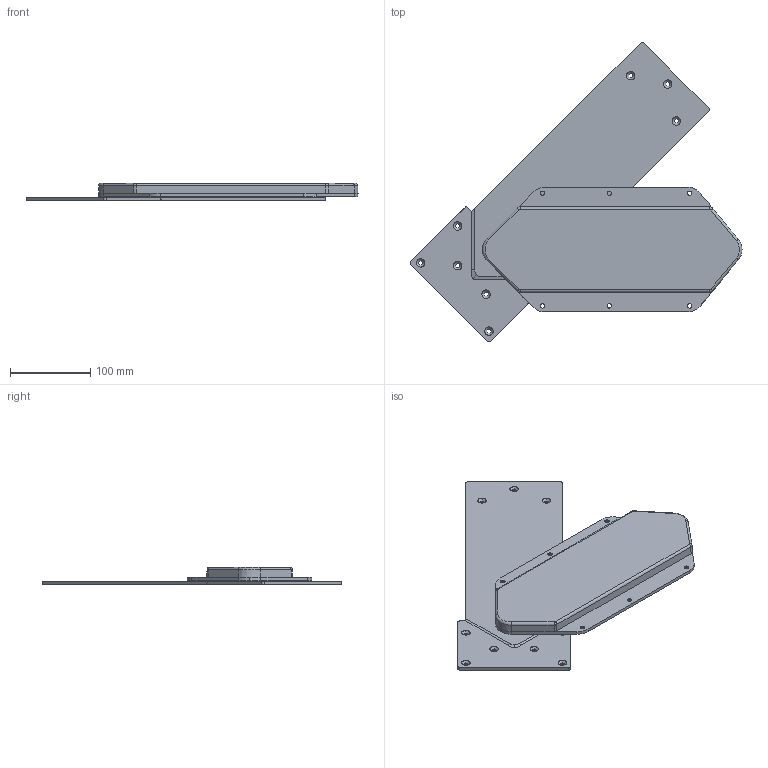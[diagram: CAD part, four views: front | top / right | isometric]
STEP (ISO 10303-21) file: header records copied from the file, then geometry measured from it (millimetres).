
FILE_DESCRIPTION (( 'STEP AP214' ), '1' );
FILE_NAME ('CM4070_3D_Dummy_01.STEP', '2022-01-24T15:06:09', ( '' ), ( '' ), 'SwSTEP 2.0', 'SolidWorks 2021', '' );
FILE_SCHEMA (( 'AUTOMOTIVE_DESIGN' ));
Length unit declared in the file: millimetre
Products named in the file (5): DUG; W036006_Gegenlager.STEP; CM4070_3D_Dummy.STEP; CM4070_3D_Dummy_01; W036005_Dummy.STEP
Assembly tree (4 placements, depth 3):
  CM4070_3D_Dummy_01
    CM4070_3D_Dummy.STEP
      W036005_Dummy.STEP
      W036006_Gegenlager.STEP
    DUG
Bounding box: 412.84 x 372.7 x 21.5 mm (x, y, z)
Volume: 738973.5 mm3; surface area: 200780.3 mm2
Topology: 3 solids, 3 shells, 154 faces, 373 edges, 225 vertices
Faces by surface type: cylinder 74, cone 37, plane 37, bspline 4, torus 2
Entity records: 5908 total; most frequent: CARTESIAN_POINT 1270, DIRECTION 835, ORIENTED_EDGE 746, EDGE_CURVE 373, AXIS2_PLACEMENT_3D 320, VERTEX_POINT 225, LINE 195, VECTOR 195
